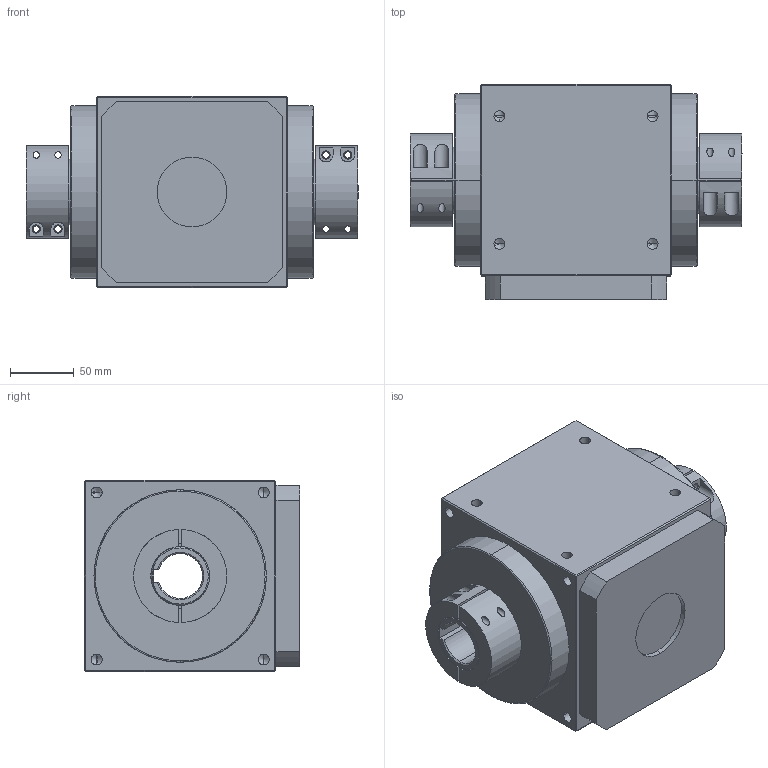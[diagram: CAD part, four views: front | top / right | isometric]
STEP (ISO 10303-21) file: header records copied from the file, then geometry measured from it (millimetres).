
FILE_DESCRIPTION (( 'STEP AP214' ), '1' );
FILE_NAME ('PAW150A-L2-2C-K(12-100) 35-114.3-200-M12.STEP', '2021-04-24T08:16:46', ( 'Microsoft' ), ( 'Microsoft China' ), 'SwSTEP 2.0', 'SolidWorks 2016', '' );
FILE_SCHEMA (( 'AUTOMOTIVE_DESIGN' ));
Length unit declared in the file: millimetre
Products named in the file (3): 150標杶_1; PAW150B-L1-2C-K--24-95-115-M8_1; PAW150A-L2-2C-K(12-100) 35-114.3-200-M12
Assembly tree (3 placements, depth 2):
  PAW150A-L2-2C-K(12-100) 35-114.3-200-M12
    PAW150B-L1-2C-K--24-95-115-M8_1
    150標杶_1  x2
Bounding box: 260 x 168.5 x 150 mm (x, y, z)
Volume: 4283577.4 mm3; surface area: 255303.5 mm2
Topology: 5 solids, 5 shells, 252 faces, 600 edges, 362 vertices
Faces by surface type: cylinder 109, plane 81, cone 58, bspline 4
Entity records: 8737 total; most frequent: CARTESIAN_POINT 1583, DIRECTION 1038, ORIENTED_EDGE 936, EDGE_CURVE 468, AXIS2_PLACEMENT_3D 407, VERTEX_POINT 290, EDGE_LOOP 258, LINE 224
